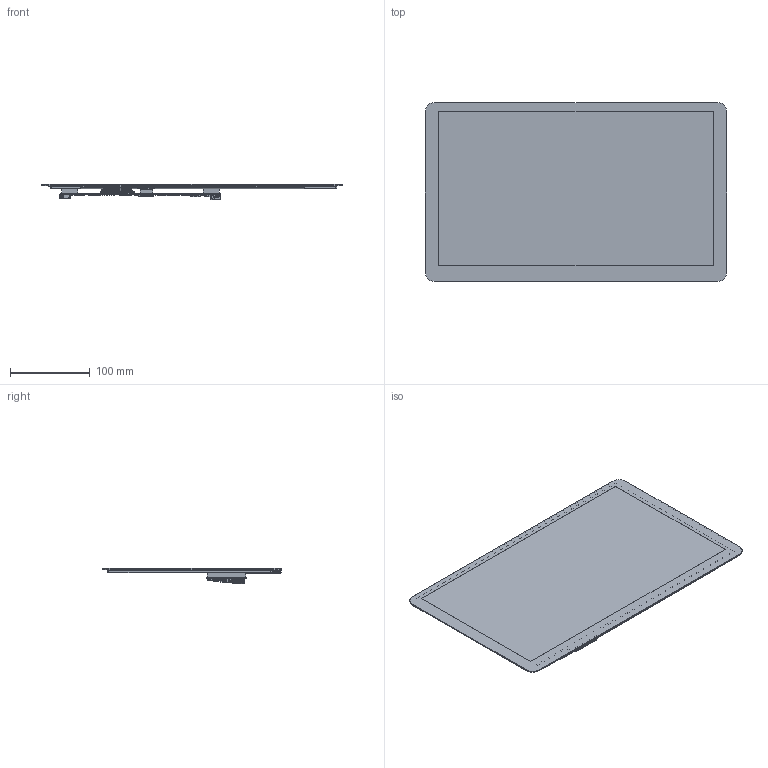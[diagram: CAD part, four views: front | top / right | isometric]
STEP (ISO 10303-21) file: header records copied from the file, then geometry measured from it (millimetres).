
FILE_DESCRIPTION((''),'2;1');
FILE_NAME('15_6INCH-HDMI-LCD_ASM','2026-03-20T16:47:06',('ag'),(''),'CREO PARAMETRIC BY PTC INC, 2021063','CREO PARAMETRIC BY PTC INC, 2021063','');
FILE_SCHEMA(('CONFIG_CONTROL_DESIGN','SHAPE_APPEARANCE_LAYERS_GROUPS'));
Products named in the file (42): H156B72-1920X1080-IPS_2; TG156-1358A1-TP_2; 15_6INCH-TP-PCBA_2; HP1_25MMX4PIN-SMT_1; FPC1567A0-CONNECTOR_2; 156CORE-001_2; 15_6INCH-TP-PCBA-A1_ASM_2_ASM; 15_6INCH-1920X1080-IPS-TP_ASM_2_ASM; 15_6HP-CAPQLED-PCBA_3_1; 15_6HP-CAPQLED-PCBA_3_2; 15_6HP-CAPQLED-PCBA_3_3; 15_6HP-CAPQLED-PCBA_3_4; 15_6HP-CAPQLED-PCBA_3_5; 15_6HP-CAPQLED-PCBA_3_6; 15_6HP-CAPQLED-PCBA_3_7; 15_6HP-CAPQLED-PCBA_3_8; 15_6HP-CAPQLED-PCBA_3_9; 15_6HP-CAPQLED-PCBA_3_10; 15_6HP-CAPQLED-PCBA_3_11; 15_6HP-CAPQLED-PCBA_3_12; 15_6HP-CAPQLED-PCBA_3_13; 15_6HP-CAPQLED-PCBA_3_14; 15_6HP-CAPQLED-PCBA_3_15; 15_6HP-CAPQLED-PCBA_3_16; 15_6HP-CAPQLED-PCBA_3_17; 15_6HP-CAPQLED-PCBA_3_18; 15_6HP-CAPQLED-PCBA_3_ASM; J1_CUI_DEVICES_SJ2-35894D-SMT_1; J1_CUI_DEVICES_SJ2-35894D-SMT_2; J1_CUI_DEVICES_SJ2-35894D-SMT_3; J1_CUI_DEVICES_SJ2-35894D-SMT_4; J1_CUI_DEVICES_SJ2-35894D-SMT-T_ASM; CORE_1_1; CORE_1_2; CORE_1_3; CORE_1_4; CORE_1_ASM; 15_6INCH-HDMI-LCD-PCBA_ASM_1_ASM; EVA_1_1; EVA_1_2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
Assembly tree (41 placements, depth 4):
  15_6INCH-HDMI-LCD_ASM
    15_6INCH-1920X1080-IPS-TP_ASM_2_ASM
      H156B72-1920X1080-IPS_2
      TG156-1358A1-TP_2
      15_6INCH-TP-PCBA-A1_ASM_2_ASM
        15_6INCH-TP-PCBA_2
        HP1_25MMX4PIN-SMT_1
        FPC1567A0-CONNECTOR_2
        156CORE-001_2
    15_6INCH-HDMI-LCD-PCBA_ASM_1_ASM
      15_6HP-CAPQLED-PCBA_3_ASM
        15_6HP-CAPQLED-PCBA_3_1
        15_6HP-CAPQLED-PCBA_3_2
        15_6HP-CAPQLED-PCBA_3_3
        15_6HP-CAPQLED-PCBA_3_4
        15_6HP-CAPQLED-PCBA_3_5
        15_6HP-CAPQLED-PCBA_3_6
        15_6HP-CAPQLED-PCBA_3_7
        15_6HP-CAPQLED-PCBA_3_8
        15_6HP-CAPQLED-PCBA_3_9
        15_6HP-CAPQLED-PCBA_3_10
        15_6HP-CAPQLED-PCBA_3_11
        15_6HP-CAPQLED-PCBA_3_12
        15_6HP-CAPQLED-PCBA_3_13
        15_6HP-CAPQLED-PCBA_3_14
        15_6HP-CAPQLED-PCBA_3_15
        15_6HP-CAPQLED-PCBA_3_16
        15_6HP-CAPQLED-PCBA_3_17
        15_6HP-CAPQLED-PCBA_3_18
      J1_CUI_DEVICES_SJ2-35894D-SMT-T_ASM
        J1_CUI_DEVICES_SJ2-35894D-SMT_1
        J1_CUI_DEVICES_SJ2-35894D-SMT_2
        J1_CUI_DEVICES_SJ2-35894D-SMT_3
        J1_CUI_DEVICES_SJ2-35894D-SMT_4
      CORE_1_ASM
        CORE_1_1
        CORE_1_2
        CORE_1_3
        CORE_1_4
    EVA_1_ASM
      EVA_1_1
      EVA_1_2
Bounding box: 378.82 x 224.84 x 19.88 mm (x, y, z)
Volume: 430816.1 mm3; surface area: 520043.2 mm2
Topology: 24 solids, 39 shells, 4312 faces, 12659 edges, 8554 vertices
Faces by surface type: plane 3643, cylinder 634, sphere 15, cone 12, bspline 6, torus 2
Entity records: 175782 total; most frequent: CARTESIAN_POINT 28059, ORIENTED_EDGE 25278, DIRECTION 22487, EDGE_CURVE 12643, VECTOR 11069, LINE 11069, VERTEX_POINT 8554, AXIS2_PLACEMENT_3D 5709
